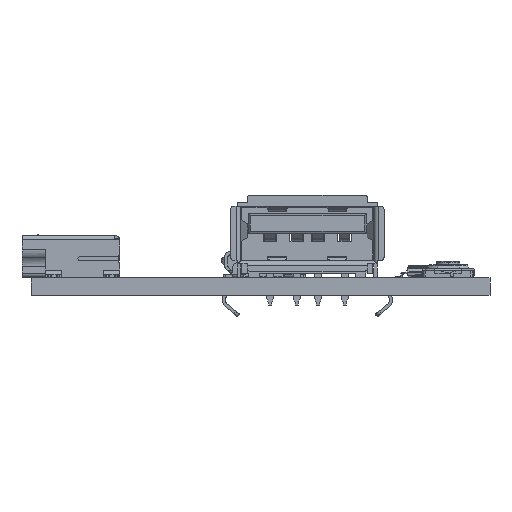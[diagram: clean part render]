
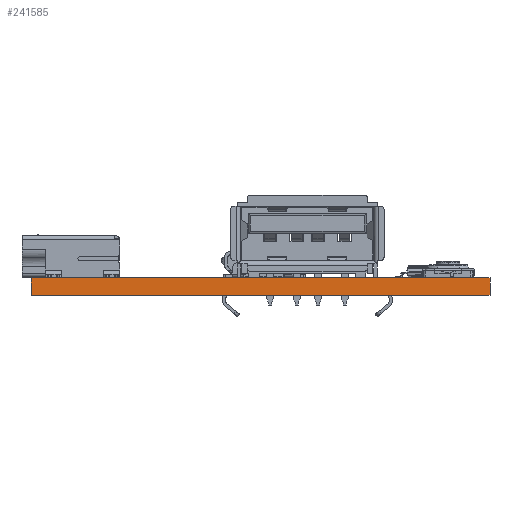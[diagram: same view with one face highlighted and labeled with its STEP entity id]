
A CAD part, left-side view. The second image highlights one B-rep face of the part: STEP entity #241585.
In plain terms, the highlighted planar face has unit normal (-1, 0, 0).
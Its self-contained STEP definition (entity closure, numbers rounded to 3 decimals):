
#240121 = PLANE('',#240122);
#240122 = AXIS2_PLACEMENT_3D('',#240123,#240124,#240125);
#240123 = CARTESIAN_POINT('',(-20.851,21.548,0.));
#240124 = DIRECTION('',(0.,1.,0.));
#240125 = DIRECTION('',(1.,0.,0.));
#240149 = PLANE('',#240150);
#240150 = AXIS2_PLACEMENT_3D('',#240151,#240152,#240153);
#240151 = CARTESIAN_POINT('',(0.,-0.001,1.6
    ));
#240152 = DIRECTION('',(-0.,-0.,-1.));
#240153 = DIRECTION('',(-1.,0.,0.));
#240177 = PLANE('',#240178);
#240178 = AXIS2_PLACEMENT_3D('',#240179,#240180,#240181);
#240179 = CARTESIAN_POINT('',(20.849,-21.552,0.));
#240180 = DIRECTION('',(0.,-1.,0.));
#240181 = DIRECTION('',(-1.,0.,0.));
#240203 = PLANE('',#240204);
#240204 = AXIS2_PLACEMENT_3D('',#240205,#240206,#240207);
#240205 = CARTESIAN_POINT('',(0.,-0.001,0.)
  );
#240206 = DIRECTION('',(-0.,-0.,-1.));
#240207 = DIRECTION('',(-1.,0.,0.));
#240218 = EDGE_CURVE('',#240219,#240221,#240223,.T.);
#240219 = VERTEX_POINT('',#240220);
#240220 = CARTESIAN_POINT('',(-20.851,21.548,0.));
#240221 = VERTEX_POINT('',#240222);
#240222 = CARTESIAN_POINT('',(-20.851,21.548,1.6));
#240223 = SURFACE_CURVE('',#240224,(#240228,#240235),.PCURVE_S1.);
#240224 = LINE('',#240225,#240226);
#240225 = CARTESIAN_POINT('',(-20.851,21.548,0.));
#240226 = VECTOR('',#240227,1.);
#240227 = DIRECTION('',(0.,0.,1.));
#240228 = PCURVE('',#240121,#240229);
#240229 = DEFINITIONAL_REPRESENTATION('',(#240230),#240234);
#240230 = LINE('',#240231,#240232);
#240231 = CARTESIAN_POINT('',(0.,0.));
#240232 = VECTOR('',#240233,1.);
#240233 = DIRECTION('',(0.,-1.));
#240234 = ( GEOMETRIC_REPRESENTATION_CONTEXT(2) 
PARAMETRIC_REPRESENTATION_CONTEXT() REPRESENTATION_CONTEXT('2D SPACE',''
  ) );
#240235 = PCURVE('',#240236,#240241);
#240236 = PLANE('',#240237);
#240237 = AXIS2_PLACEMENT_3D('',#240238,#240239,#240240);
#240238 = CARTESIAN_POINT('',(-20.851,-21.552,0.));
#240239 = DIRECTION('',(-1.,0.,0.));
#240240 = DIRECTION('',(0.,1.,0.));
#240241 = DEFINITIONAL_REPRESENTATION('',(#240242),#240246);
#240242 = LINE('',#240243,#240244);
#240243 = CARTESIAN_POINT('',(43.1,0.));
#240244 = VECTOR('',#240245,1.);
#240245 = DIRECTION('',(0.,-1.));
#240246 = ( GEOMETRIC_REPRESENTATION_CONTEXT(2) 
PARAMETRIC_REPRESENTATION_CONTEXT() REPRESENTATION_CONTEXT('2D SPACE',''
  ) );
#240296 = VERTEX_POINT('',#240297);
#240297 = CARTESIAN_POINT('',(-20.851,-21.552,1.6));
#240318 = EDGE_CURVE('',#240319,#240296,#240321,.T.);
#240319 = VERTEX_POINT('',#240320);
#240320 = CARTESIAN_POINT('',(-20.851,-21.552,0.));
#240321 = SURFACE_CURVE('',#240322,(#240326,#240333),.PCURVE_S1.);
#240322 = LINE('',#240323,#240324);
#240323 = CARTESIAN_POINT('',(-20.851,-21.552,0.));
#240324 = VECTOR('',#240325,1.);
#240325 = DIRECTION('',(0.,0.,1.));
#240326 = PCURVE('',#240177,#240327);
#240327 = DEFINITIONAL_REPRESENTATION('',(#240328),#240332);
#240328 = LINE('',#240329,#240330);
#240329 = CARTESIAN_POINT('',(41.7,0.));
#240330 = VECTOR('',#240331,1.);
#240331 = DIRECTION('',(0.,-1.));
#240332 = ( GEOMETRIC_REPRESENTATION_CONTEXT(2) 
PARAMETRIC_REPRESENTATION_CONTEXT() REPRESENTATION_CONTEXT('2D SPACE',''
  ) );
#240333 = PCURVE('',#240236,#240334);
#240334 = DEFINITIONAL_REPRESENTATION('',(#240335),#240339);
#240335 = LINE('',#240336,#240337);
#240336 = CARTESIAN_POINT('',(0.,0.));
#240337 = VECTOR('',#240338,1.);
#240338 = DIRECTION('',(0.,-1.));
#240339 = ( GEOMETRIC_REPRESENTATION_CONTEXT(2) 
PARAMETRIC_REPRESENTATION_CONTEXT() REPRESENTATION_CONTEXT('2D SPACE',''
  ) );
#240367 = EDGE_CURVE('',#240319,#240219,#240368,.T.);
#240368 = SURFACE_CURVE('',#240369,(#240373,#240380),.PCURVE_S1.);
#240369 = LINE('',#240370,#240371);
#240370 = CARTESIAN_POINT('',(-20.851,-21.552,0.));
#240371 = VECTOR('',#240372,1.);
#240372 = DIRECTION('',(0.,1.,0.));
#240373 = PCURVE('',#240203,#240374);
#240374 = DEFINITIONAL_REPRESENTATION('',(#240375),#240379);
#240375 = LINE('',#240376,#240377);
#240376 = CARTESIAN_POINT('',(20.851,-21.551));
#240377 = VECTOR('',#240378,1.);
#240378 = DIRECTION('',(0.,1.));
#240379 = ( GEOMETRIC_REPRESENTATION_CONTEXT(2) 
PARAMETRIC_REPRESENTATION_CONTEXT() REPRESENTATION_CONTEXT('2D SPACE',''
  ) );
#240380 = PCURVE('',#240236,#240381);
#240381 = DEFINITIONAL_REPRESENTATION('',(#240382),#240386);
#240382 = LINE('',#240383,#240384);
#240383 = CARTESIAN_POINT('',(0.,0.));
#240384 = VECTOR('',#240385,1.);
#240385 = DIRECTION('',(1.,0.));
#240386 = ( GEOMETRIC_REPRESENTATION_CONTEXT(2) 
PARAMETRIC_REPRESENTATION_CONTEXT() REPRESENTATION_CONTEXT('2D SPACE',''
  ) );
#241024 = EDGE_CURVE('',#240296,#240221,#241025,.T.);
#241025 = SURFACE_CURVE('',#241026,(#241030,#241037),.PCURVE_S1.);
#241026 = LINE('',#241027,#241028);
#241027 = CARTESIAN_POINT('',(-20.851,-21.552,1.6));
#241028 = VECTOR('',#241029,1.);
#241029 = DIRECTION('',(0.,1.,0.));
#241030 = PCURVE('',#240149,#241031);
#241031 = DEFINITIONAL_REPRESENTATION('',(#241032),#241036);
#241032 = LINE('',#241033,#241034);
#241033 = CARTESIAN_POINT('',(20.851,-21.551));
#241034 = VECTOR('',#241035,1.);
#241035 = DIRECTION('',(0.,1.));
#241036 = ( GEOMETRIC_REPRESENTATION_CONTEXT(2) 
PARAMETRIC_REPRESENTATION_CONTEXT() REPRESENTATION_CONTEXT('2D SPACE',''
  ) );
#241037 = PCURVE('',#240236,#241038);
#241038 = DEFINITIONAL_REPRESENTATION('',(#241039),#241043);
#241039 = LINE('',#241040,#241041);
#241040 = CARTESIAN_POINT('',(0.,-1.6));
#241041 = VECTOR('',#241042,1.);
#241042 = DIRECTION('',(1.,0.));
#241043 = ( GEOMETRIC_REPRESENTATION_CONTEXT(2) 
PARAMETRIC_REPRESENTATION_CONTEXT() REPRESENTATION_CONTEXT('2D SPACE',''
  ) );
#241585 = ADVANCED_FACE('',(#241586),#240236,.T.);
#241586 = FACE_BOUND('',#241587,.T.);
#241587 = EDGE_LOOP('',(#241588,#241589,#241590,#241591));
#241588 = ORIENTED_EDGE('',*,*,#240318,.T.);
#241589 = ORIENTED_EDGE('',*,*,#241024,.T.);
#241590 = ORIENTED_EDGE('',*,*,#240218,.F.);
#241591 = ORIENTED_EDGE('',*,*,#240367,.F.);
